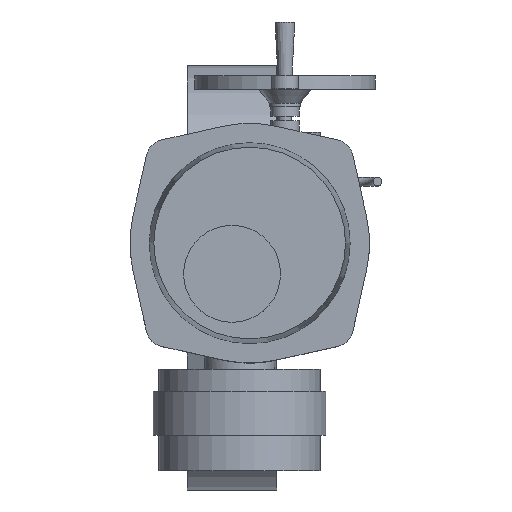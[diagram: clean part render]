
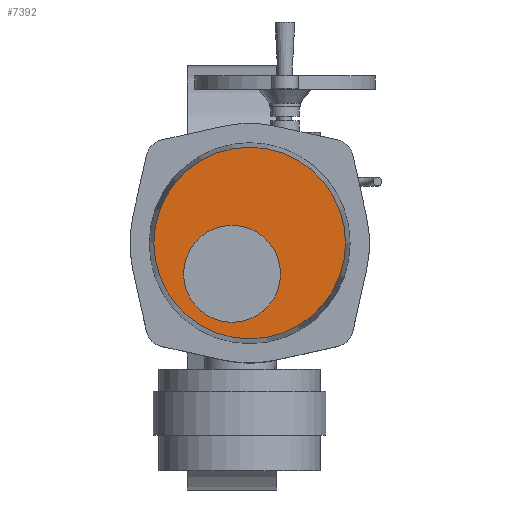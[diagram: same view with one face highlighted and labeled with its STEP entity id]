
A CAD part, top view. The second image highlights one B-rep face of the part: STEP entity #7392.
In plain terms, the highlighted planar face has unit normal (0, 0, 1).
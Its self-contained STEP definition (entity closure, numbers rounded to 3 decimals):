
#7392=ADVANCED_FACE('',(#13569,#13571),#13573,.T.);
#13569=FACE_BOUND('',#13570,.T.);
#13570=EDGE_LOOP('',(#18491));
#13571=FACE_BOUND('',#13572,.T.);
#13572=EDGE_LOOP('',(#18492));
#13573=PLANE('',#13574);
#13574=AXIS2_PLACEMENT_3D('',#13575,#13576,#13577);
#13575=CARTESIAN_POINT('',(20.,38.,704.));
#13576=DIRECTION('',(0.,0.,1.));
#13577=DIRECTION('',(-1.,0.,0.));
#18491=ORIENTED_EDGE('',*,*,#20940,.T.);
#18492=ORIENTED_EDGE('',*,*,#20943,.F.);
#20940=EDGE_CURVE('',#24869,#24869,#24870,.T.);
#20943=EDGE_CURVE('',#24875,#24875,#24876,.T.);
#24869=VERTEX_POINT('',#35824);
#24870=CIRCLE('',#35825,108.707);
#24875=VERTEX_POINT('',#35839);
#24876=CIRCLE('',#35840,55.);
#35824=CARTESIAN_POINT('',(-88.707,38.,704.));
#35825=AXIS2_PLACEMENT_3D('',#35826,#35827,#35828);
#35826=CARTESIAN_POINT('',(20.,38.,704.));
#35827=DIRECTION('',(0.,0.,1.));
#35828=DIRECTION('',(-1.,0.,0.));
#35839=CARTESIAN_POINT('',(-55.,3.,704.));
#35840=AXIS2_PLACEMENT_3D('',#35841,#35842,#35843);
#35841=CARTESIAN_POINT('',(0.,3.,704.));
#35842=DIRECTION('',(0.,0.,1.));
#35843=DIRECTION('',(-1.,0.,0.));
